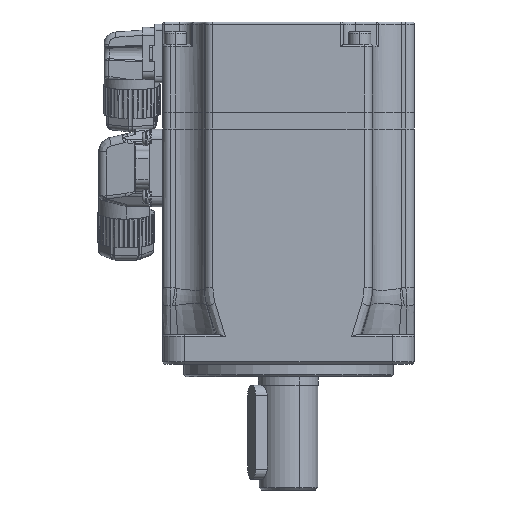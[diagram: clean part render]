
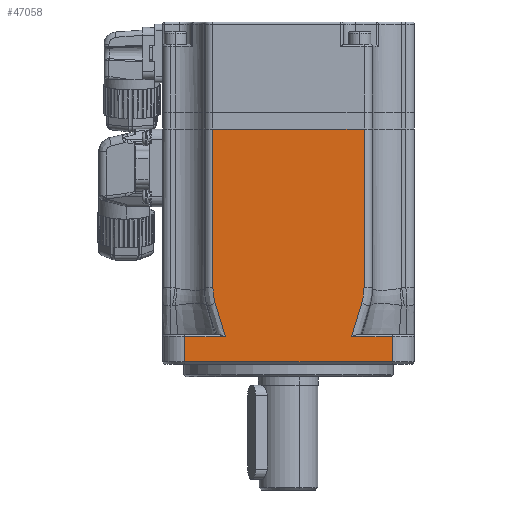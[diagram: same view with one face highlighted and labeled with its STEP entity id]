
A CAD part, front view. The second image highlights one B-rep face of the part: STEP entity #47058.
In plain terms, the highlighted planar face has unit normal (0, -1, 0).
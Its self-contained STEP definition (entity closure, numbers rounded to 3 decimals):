
#183 = CARTESIAN_POINT ( 'NONE',  ( 15.299, -30., -17.103 ) ) ;
#446 = EDGE_CURVE ( 'NONE', #122923, #23440, #129838, .T. ) ;
#665 = LINE ( 'NONE', #30267, #83027 ) ;
#806 = DIRECTION ( 'NONE',  ( 0., -1., 0. ) ) ;
#1941 = DIRECTION ( 'NONE',  ( -1., 0., 0. ) ) ;
#3972 = CARTESIAN_POINT ( 'NONE',  ( -15.299, -30., -17.103 ) ) ;
#5869 = LINE ( 'NONE', #64977, #27402 ) ;
#6729 = CARTESIAN_POINT ( 'NONE',  ( 18., -30., 31.5 ) ) ;
#9449 = EDGE_CURVE ( 'NONE', #122164, #129699, #115170, .T. ) ;
#10055 = EDGE_CURVE ( 'NONE', #129699, #35749, #42754, .T. ) ;
#10785 = CARTESIAN_POINT ( 'NONE',  ( -18., -30., 31.5 ) ) ;
#11644 = CARTESIAN_POINT ( 'NONE',  ( 18., -30., -6.428 ) ) ;
#13174 = VECTOR ( 'NONE', #110095, 1000. ) ;
#13705 = ORIENTED_EDGE ( 'NONE', *, *, #9449, .T. ) ;
#13832 = CARTESIAN_POINT ( 'NONE',  ( -16.654, -30., -12.673 ) ) ;
#15740 = EDGE_CURVE ( 'NONE', #41528, #17764, #41923, .T. ) ;
#16781 = VERTEX_POINT ( 'NONE', #80676 ) ;
#17764 = VERTEX_POINT ( 'NONE', #55858 ) ;
#21712 = LINE ( 'NONE', #61727, #115244 ) ;
#23440 = VERTEX_POINT ( 'NONE', #96336 ) ;
#23604 = ORIENTED_EDGE ( 'NONE', *, *, #117880, .T. ) ;
#26449 = LINE ( 'NONE', #6729, #84566 ) ;
#26662 = EDGE_CURVE ( 'NONE', #105368, #53054, #59708, .T. ) ;
#27402 = VECTOR ( 'NONE', #126123, 1000. ) ;
#27596 = CARTESIAN_POINT ( 'NONE',  ( -24.75, -30., -24. ) ) ;
#29148 = CARTESIAN_POINT ( 'NONE',  ( 15.846, -30., -15.318 ) ) ;
#29491 = DIRECTION ( 'NONE',  ( 1., 0., 0. ) ) ;
#30089 = CARTESIAN_POINT ( 'NONE',  ( 17.995, -30., -6.735 ) ) ;
#30267 = CARTESIAN_POINT ( 'NONE',  ( 18., -30., 31.5 ) ) ;
#35749 = VERTEX_POINT ( 'NONE', #47827 ) ;
#37859 = CARTESIAN_POINT ( 'NONE',  ( -24.75, -30., -24.5 ) ) ;
#38740 = CARTESIAN_POINT ( 'NONE',  ( -15.024, -30., -18. ) ) ;
#38784 = EDGE_CURVE ( 'NONE', #17764, #122923, #5869, .T. ) ;
#40283 = ORIENTED_EDGE ( 'NONE', *, *, #63045, .T. ) ;
#41178 = ORIENTED_EDGE ( 'NONE', *, *, #10055, .T. ) ;
#41528 = VERTEX_POINT ( 'NONE', #27596 ) ;
#41923 = LINE ( 'NONE', #80635, #96971 ) ;
#42001 = B_SPLINE_CURVE_WITH_KNOTS ( 'NONE', 3,
 ( #60634, #183, #29148, #78987, #109936, #119157 ),
 .UNSPECIFIED., .F., .F.,
 ( 4, 1, 1, 4 ),
 ( 0., 0.333, 0.667, 1. ),
 .UNSPECIFIED. ) ;
#42754 = B_SPLINE_CURVE_WITH_KNOTS ( 'NONE', 3,
 ( #85365, #47966, #126187, #46678, #76192, #118275, #86710, #67622, #58451 ),
 .UNSPECIFIED., .F., .F.,
 ( 4, 1, 1, 1, 1, 1, 4 ),
 ( 0., 0.167, 0.333, 0.5, 0.667, 0.833, 1. ),
 .UNSPECIFIED. ) ;
#43555 = DIRECTION ( 'NONE',  ( 0., 0., -1. ) ) ;
#44349 = VECTOR ( 'NONE', #89048, 1000. ) ;
#45309 = ORIENTED_EDGE ( 'NONE', *, *, #38784, .T. ) ;
#45481 = DIRECTION ( 'NONE',  ( 1., 0., 0. ) ) ;
#46678 = CARTESIAN_POINT ( 'NONE',  ( -17.911, -30., -7.862 ) ) ;
#47058 = ADVANCED_FACE ( 'NONE', ( #90808 ), #88222, .T. ) ;
#47827 = CARTESIAN_POINT ( 'NONE',  ( -17.442, -30., -10.068 ) ) ;
#47858 = EDGE_LOOP ( 'NONE', ( #45309, #55505, #40283, #71635, #121729, #124030, #13705, #41178, #71695, #23604, #127526, #95023 ) ) ;
#47966 = CARTESIAN_POINT ( 'NONE',  ( -18., -30., -6.572 ) ) ;
#50111 = CARTESIAN_POINT ( 'NONE',  ( -30., -30., -24.5 ) ) ;
#51082 = CARTESIAN_POINT ( 'NONE',  ( 17.812, -30., -8.533 ) ) ;
#52370 = CARTESIAN_POINT ( 'NONE',  ( 17.909, -30., -7.866 ) ) ;
#52822 = CARTESIAN_POINT ( 'NONE',  ( -15.024, -30., -18. ) ) ;
#53054 = VERTEX_POINT ( 'NONE', #82420 ) ;
#53894 = CARTESIAN_POINT ( 'NONE',  ( -15.846, -30., -15.319 ) ) ;
#54346 = EDGE_CURVE ( 'NONE', #122164, #16781, #26449, .T. ) ;
#55505 = ORIENTED_EDGE ( 'NONE', *, *, #446, .T. ) ;
#55858 = CARTESIAN_POINT ( 'NONE',  ( 24.75, -30., -24. ) ) ;
#58378 = CARTESIAN_POINT ( 'NONE',  ( -24.75, -30., -18. ) ) ;
#58451 = CARTESIAN_POINT ( 'NONE',  ( -17.442, -30., -10.068 ) ) ;
#59708 = B_SPLINE_CURVE_WITH_KNOTS ( 'NONE', 3,
 ( #81891, #122041, #101613, #51082, #52370, #110882, #30089, #11644, #62173 ),
 .UNSPECIFIED., .F., .F.,
 ( 4, 1, 1, 1, 1, 1, 4 ),
 ( 0., 0.167, 0.333, 0.5, 0.667, 0.833, 1. ),
 .UNSPECIFIED. ) ;
#60634 = CARTESIAN_POINT ( 'NONE',  ( 15.024, -30., -18. ) ) ;
#61727 = CARTESIAN_POINT ( 'NONE',  ( -30., -30., -18. ) ) ;
#62173 = CARTESIAN_POINT ( 'NONE',  ( 18., -30., -6.287 ) ) ;
#63045 = EDGE_CURVE ( 'NONE', #23440, #105368, #42001, .T. ) ;
#63723 = CARTESIAN_POINT ( 'NONE',  ( -17.442, -30., -10.068 ) ) ;
#64977 = CARTESIAN_POINT ( 'NONE',  ( 24.75, -30., -24.5 ) ) ;
#67622 = CARTESIAN_POINT ( 'NONE',  ( -17.483, -30., -9.932 ) ) ;
#71635 = ORIENTED_EDGE ( 'NONE', *, *, #26662, .T. ) ;
#71695 = ORIENTED_EDGE ( 'NONE', *, *, #104120, .T. ) ;
#76192 = CARTESIAN_POINT ( 'NONE',  ( -17.812, -30., -8.529 ) ) ;
#78987 = CARTESIAN_POINT ( 'NONE',  ( 16.654, -30., -12.673 ) ) ;
#80635 = CARTESIAN_POINT ( 'NONE',  ( 24.75, -30., -24. ) ) ;
#80676 = CARTESIAN_POINT ( 'NONE',  ( 18., -30., 31.5 ) ) ;
#81891 = CARTESIAN_POINT ( 'NONE',  ( 17.442, -30., -10.068 ) ) ;
#82420 = CARTESIAN_POINT ( 'NONE',  ( 18., -30., -6.287 ) ) ;
#83027 = VECTOR ( 'NONE', #116550, 1000. ) ;
#83622 = EDGE_CURVE ( 'NONE', #110043, #41528, #97583, .T. ) ;
#83940 = EDGE_CURVE ( 'NONE', #16781, #53054, #665, .T. ) ;
#84242 = CARTESIAN_POINT ( 'NONE',  ( -18., -30., 31.5 ) ) ;
#84566 = VECTOR ( 'NONE', #45481, 1000. ) ;
#85365 = CARTESIAN_POINT ( 'NONE',  ( -18., -30., -6.287 ) ) ;
#86710 = CARTESIAN_POINT ( 'NONE',  ( -17.567, -30., -9.637 ) ) ;
#87848 = CARTESIAN_POINT ( 'NONE',  ( 17.442, -30., -10.068 ) ) ;
#88222 = PLANE ( 'NONE',  #98226 ) ;
#89048 = DIRECTION ( 'NONE',  ( 0., 0., -1. ) ) ;
#90160 = DIRECTION ( 'NONE',  ( 0., 0., -1. ) ) ;
#90808 = FACE_OUTER_BOUND ( 'NONE', #47858, .T. ) ;
#95023 = ORIENTED_EDGE ( 'NONE', *, *, #15740, .T. ) ;
#96336 = CARTESIAN_POINT ( 'NONE',  ( 15.024, -30., -18. ) ) ;
#96971 = VECTOR ( 'NONE', #29491, 1000. ) ;
#97583 = LINE ( 'NONE', #37859, #44349 ) ;
#98226 = AXIS2_PLACEMENT_3D ( 'NONE', #50111, #806, #90160 ) ;
#101613 = CARTESIAN_POINT ( 'NONE',  ( 17.664, -30., -9.265 ) ) ;
#103802 = CARTESIAN_POINT ( 'NONE',  ( -17.181, -30., -10.933 ) ) ;
#104120 = EDGE_CURVE ( 'NONE', #35749, #124595, #116223, .T. ) ;
#105368 = VERTEX_POINT ( 'NONE', #87848 ) ;
#109936 = CARTESIAN_POINT ( 'NONE',  ( 17.181, -30., -10.933 ) ) ;
#110043 = VERTEX_POINT ( 'NONE', #58378 ) ;
#110095 = DIRECTION ( 'NONE',  ( -1., 0., 0. ) ) ;
#110882 = CARTESIAN_POINT ( 'NONE',  ( 17.967, -30., -7.266 ) ) ;
#114343 = CARTESIAN_POINT ( 'NONE',  ( -18., -30., -6.287 ) ) ;
#115170 = LINE ( 'NONE', #84242, #119177 ) ;
#115244 = VECTOR ( 'NONE', #1941, 1000. ) ;
#116223 = B_SPLINE_CURVE_WITH_KNOTS ( 'NONE', 3,
 ( #63723, #103802, #13832, #53894, #3972, #38740 ),
 .UNSPECIFIED., .F., .F.,
 ( 4, 1, 1, 4 ),
 ( 0., 0.333, 0.667, 1. ),
 .UNSPECIFIED. ) ;
#116550 = DIRECTION ( 'NONE',  ( 0., 0., -1. ) ) ;
#117880 = EDGE_CURVE ( 'NONE', #124595, #110043, #21712, .T. ) ;
#118275 = CARTESIAN_POINT ( 'NONE',  ( -17.694, -30., -9.12 ) ) ;
#119157 = CARTESIAN_POINT ( 'NONE',  ( 17.442, -30., -10.068 ) ) ;
#119177 = VECTOR ( 'NONE', #43555, 1000. ) ;
#119339 = CARTESIAN_POINT ( 'NONE',  ( -30., -30., -18. ) ) ;
#121729 = ORIENTED_EDGE ( 'NONE', *, *, #83940, .F. ) ;
#122041 = CARTESIAN_POINT ( 'NONE',  ( 17.525, -30., -9.794 ) ) ;
#122164 = VERTEX_POINT ( 'NONE', #10785 ) ;
#122923 = VERTEX_POINT ( 'NONE', #129909 ) ;
#124030 = ORIENTED_EDGE ( 'NONE', *, *, #54346, .F. ) ;
#124595 = VERTEX_POINT ( 'NONE', #52822 ) ;
#126123 = DIRECTION ( 'NONE',  ( 0., 0., 1. ) ) ;
#126187 = CARTESIAN_POINT ( 'NONE',  ( -17.981, -30., -7.119 ) ) ;
#127526 = ORIENTED_EDGE ( 'NONE', *, *, #83622, .T. ) ;
#129699 = VERTEX_POINT ( 'NONE', #114343 ) ;
#129838 = LINE ( 'NONE', #119339, #13174 ) ;
#129909 = CARTESIAN_POINT ( 'NONE',  ( 24.75, -30., -18. ) ) ;
